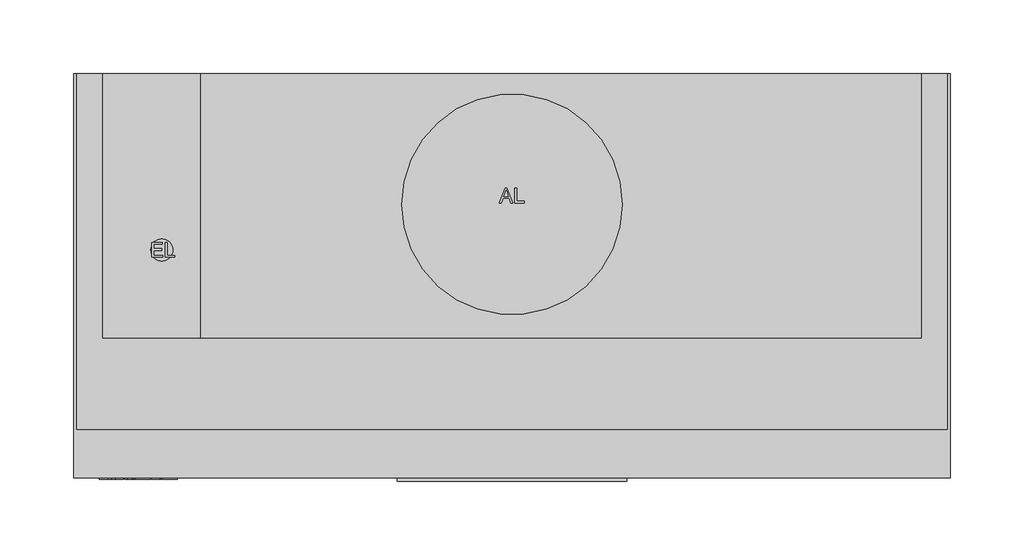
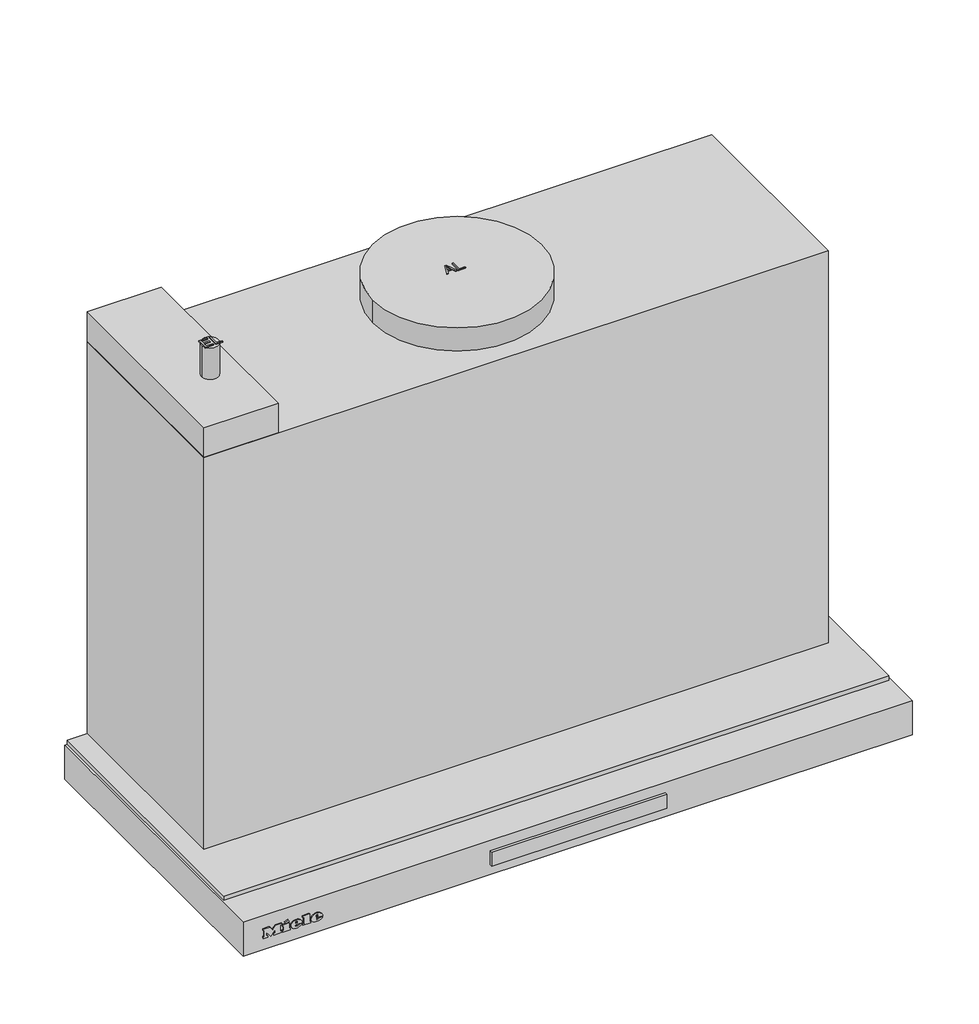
# Not in any storey: 1 proxy.
"""IFC4 building model written with IfcOpenShell, lengths in millimetres."""

import ifcopenshell
import ifcopenshell.guid

model = None  # the IFC model being written
_history = None  # IfcOwnerHistory: only IFC2X3 demands one
_inside = {}  # id of a spatial element -> (the spatial element, [elements in it])
_under = {}  # id of a project, library or spatial element -> (it, [spatial elements below it])
_declared = {}  # id of a project -> (the project, [libraries it declares])
_typed = {}  # id of a type object -> (the type object, [elements of that type])
_made_of = {}  # id of a material, layer set ... -> (it, [elements and type objects made of it])


def new_model(schema):
    """Start an empty IFC model of exactly this schema.

    Asked for "IFC4X3", IfcOpenShell would pick the latest addendum, in which some entities
    have other attributes; the version numbers below select the first issue.
    IFC2X3 requires an IfcOwnerHistory on every rooted entity: one is made here for all.
    """
    global model, _history
    if schema == "IFC4X3":
        model = ifcopenshell.file(schema_version=(4, 3, 0, 0))
    else:
        model = ifcopenshell.file(schema=schema)
    _inside.clear()
    _under.clear()
    _declared.clear()
    _typed.clear()
    _made_of.clear()
    _history = None
    if model.schema == "IFC2X3":
        org = make("IfcOrganization", Name="unknown")
        user = make(
            "IfcPersonAndOrganization",
            ThePerson=make("IfcPerson", FamilyName="unknown"),
            TheOrganization=org,
        )
        app = make(
            "IfcApplication",
            ApplicationDeveloper=org,
            Version="unknown",
            ApplicationFullName="unknown",
            ApplicationIdentifier="unknown",
        )
        _history = make(
            "IfcOwnerHistory",
            OwningUser=user,
            OwningApplication=app,
            ChangeAction="ADDED",
            CreationDate=0,
        )
    return model


def make(cls, **values):
    """One entity of the class cls with the attributes given. An attribute that is None is left unset."""
    return model.create_entity(
        cls, **{name: value for name, value in values.items() if value is not None}
    )


def rooted(cls, **values):
    """An entity with a GlobalId (a new one), such as an element, a storey or a relation."""
    return make(cls, GlobalId=ifcopenshell.guid.new(), OwnerHistory=_history, **values)


def si_unit(unit_type, name, prefix=None):
    """IfcSIUnit, for example si_unit("LENGTHUNIT", "METRE", prefix="MILLI")."""
    return make("IfcSIUnit", UnitType=unit_type, Prefix=prefix, Name=name)


def assignment(units):
    """IfcUnitAssignment: the units of a project."""
    return None if units is None else make("IfcUnitAssignment", Units=units)


def point(xyz):
    """IfcCartesianPoint."""
    return None if xyz is None else make("IfcCartesianPoint", Coordinates=xyz)


def direction(xyz):
    """IfcDirection."""
    return None if xyz is None else make("IfcDirection", DirectionRatios=xyz)


def frame(location, z_axis=None, x_axis=None):
    """IfcAxis2Placement3D, a coordinate frame: its origin and axes. An axis left out is left unset."""
    return make(
        "IfcAxis2Placement3D",
        Location=point(location),
        Axis=direction(z_axis),
        RefDirection=direction(x_axis),
    )


def frame_2d(location, x_axis=None):
    """IfcAxis2Placement2D, a coordinate frame in the plane: its origin and x axis."""
    return make(
        "IfcAxis2Placement2D", Location=point(location), RefDirection=direction(x_axis)
    )


def origin():
    """The frame at (0, 0, 0) with its axes left unset."""
    return frame((0.0, 0.0, 0.0))


def origin_with_axes():
    """The frame at (0, 0, 0) with the z axis (0, 0, 1) and the x axis (1, 0, 0) written out."""
    return frame((0.0, 0.0, 0.0), z_axis=(0.0, 0.0, 1.0), x_axis=(1.0, 0.0, 0.0))


def place(relative_to, where):
    """IfcLocalPlacement: puts the frame where relative to a parent placement (None: the world)."""
    return make(
        "IfcLocalPlacement", PlacementRelTo=relative_to, RelativePlacement=where
    )


def context(
    kind, dimensions, precision=None, world=None, true_north=None, identifier=None
):
    """IfcGeometricRepresentationContext, for example the 3D "Model" context."""
    return make(
        "IfcGeometricRepresentationContext",
        ContextIdentifier=identifier,
        ContextType=kind,
        CoordinateSpaceDimension=dimensions,
        Precision=precision,
        WorldCoordinateSystem=world,
        TrueNorth=true_north,
    )


def project(units=None, contexts=None):
    """IfcProject with its units and contexts."""
    return rooted(
        "IfcProject",
        Name="project",
        RepresentationContexts=contexts,
        UnitsInContext=assignment(units),
    )


def spatial(cls, under=None, at=None, **own):
    """A site, building, storey or space (cls), placed at a placement, below another one or the project."""
    s = rooted(cls, ObjectPlacement=at, **own)
    if under is not None:
        _under.setdefault(under.id(), (under, []))[1].append(s)
    return s


def polyline(points):
    """IfcPolyline through the points."""
    return make("IfcPolyline", Points=[point(p) for p in points])


def circle_curve(where, radius):
    """IfcCircle in the frame where."""
    return make("IfcCircle", Position=where, Radius=radius)


def ellipse_curve(where, semi_axis1, semi_axis2):
    """IfcEllipse in the frame where."""
    return make(
        "IfcEllipse", Position=where, SemiAxis1=semi_axis1, SemiAxis2=semi_axis2
    )


def trimmed(basis, trim1, trim2, sense, master):
    """IfcTrimmedCurve: the piece of a basis curve between two trims."""
    return make(
        "IfcTrimmedCurve",
        BasisCurve=basis,
        Trim1=trim1,
        Trim2=trim2,
        SenseAgreement=sense,
        MasterRepresentation=master,
    )


def segment(curve, same_sense, transition):
    """IfcCompositeCurveSegment."""
    return make(
        "IfcCompositeCurveSegment",
        Transition=transition,
        SameSense=same_sense,
        ParentCurve=curve,
    )


def composite_curve(segments, self_intersect=None):
    """IfcCompositeCurve: segments joined end to end."""
    return make("IfcCompositeCurve", Segments=segments, SelfIntersect=self_intersect)


def outline(outer, holes=None, kind="AREA"):
    """IfcArbitraryClosedProfileDef: a profile drawn as a closed curve; with holes, ...WithVoids."""
    if holes is None:
        return make("IfcArbitraryClosedProfileDef", ProfileType=kind, OuterCurve=outer)
    return make(
        "IfcArbitraryProfileDefWithVoids",
        ProfileType=kind,
        OuterCurve=outer,
        InnerCurves=holes,
    )


def extrude(swept, where, along, depth):
    """IfcExtrudedAreaSolid: the profile swept, set in the frame where, extruded along a direction by depth."""
    return make(
        "IfcExtrudedAreaSolid",
        SweptArea=swept,
        Position=where,
        ExtrudedDirection=direction(along),
        Depth=depth,
    )


def faces_of(points, faces, orient=None, outer=None):
    """IfcFace entities. A face is a list of loops; a loop is a list of indices into points, from 0.

    orient and outer hold one flag for each loop. By default every Orientation is true, the
    first loop of a face is its IfcFaceOuterBound and the others are IfcFaceBound.
    """
    made = []
    for i, loops in enumerate(faces):
        bounds = []
        for j, loop in enumerate(loops):
            is_outer = j == 0 if outer is None else outer[i][j]
            bounds.append(
                make(
                    "IfcFaceOuterBound" if is_outer else "IfcFaceBound",
                    Bound=make("IfcPolyLoop", Polygon=[points[k] for k in loop]),
                    Orientation=True if orient is None else orient[i][j],
                )
            )
        made.append(make("IfcFace", Bounds=bounds))
    return made


def faceted_brep(points, faces, orient=None, outer=None, voids=None):
    """IfcFacetedBrep: a solid bounded by flat faces; with voids (closed shells), ...WithVoids."""
    shared = [point(p) for p in points]
    hull = make("IfcClosedShell", CfsFaces=faces_of(shared, faces, orient, outer))
    if voids is None:
        return make("IfcFacetedBrep", Outer=hull)
    return make(
        "IfcFacetedBrepWithVoids",
        Outer=hull,
        Voids=[
            make(cls, CfsFaces=faces_of(shared, fs, o, b)) for cls, fs, o, b in voids
        ],
    )


def shape(context_of_items, identifier, shape_type, items):
    """IfcShapeRepresentation: the items that make up one representation, for example the "Body"."""
    return make(
        "IfcShapeRepresentation",
        ContextOfItems=context_of_items,
        RepresentationIdentifier=identifier,
        RepresentationType=shape_type,
        Items=items,
    )


def source(mapping_origin, context_of_items, identifier, shape_type, items):
    """IfcRepresentationMap: a shape defined once, which mapped items show again and again."""
    return make(
        "IfcRepresentationMap",
        MappingOrigin=mapping_origin,
        MappedRepresentation=shape(context_of_items, identifier, shape_type, items),
    )


def transform(
    local_origin,
    x_axis=None,
    y_axis=None,
    z_axis=None,
    scale=None,
    scale2=None,
    scale3=None,
    uniform=True,
):
    """IfcCartesianTransformationOperator3D, or its non-uniform kind. x_axis, y_axis, z_axis: its Axis1, 2, 3."""
    if uniform:
        return make(
            "IfcCartesianTransformationOperator3D",
            Axis1=direction(x_axis),
            Axis2=direction(y_axis),
            LocalOrigin=point(local_origin),
            Scale=scale,
            Axis3=direction(z_axis),
        )
    return make(
        "IfcCartesianTransformationOperator3DnonUniform",
        Axis1=direction(x_axis),
        Axis2=direction(y_axis),
        LocalOrigin=point(local_origin),
        Scale=scale,
        Axis3=direction(z_axis),
        Scale2=scale2,
        Scale3=scale3,
    )


def mapped(mapping_source, mapping_target):
    """IfcMappedItem: shows the shape of a source again, moved by a transform."""
    return make(
        "IfcMappedItem", MappingSource=mapping_source, MappingTarget=mapping_target
    )


def made_of(thing, what):
    """Note that an element or type object is made of a material, layer set ...; save() writes the relation."""
    if what is not None:
        _made_of.setdefault(what.id(), (what, []))[1].append(thing)
    return thing


def element(
    cls,
    number,
    at=None,
    inside=None,
    cuts=None,
    type_object=None,
    material=None,
    context=None,
    identifier="Body",
    shape_type=None,
    held_by="IfcProductDefinitionShape",
    body=None,
    shapes=None,
    **own,
):
    """One element of the class cls, such as IfcWall. Its Tag is "e" and its number.

    at: its placement. inside: the storey or other place that contains it. cuts: it is an
    opening in that element (IfcRelVoidsElement). A single representation is given by context,
    identifier, shape_type and body (its items); several are given by shapes. held_by: the class
    of the entity that holds the representations. save() writes the other relations.
    """
    e = rooted(cls, Tag="e%d" % number, ObjectPlacement=at, **own)
    if body is not None:
        shapes = [shape(context, identifier, shape_type, body)]
    if shapes is not None:
        e.Representation = make(held_by, Representations=shapes)
    if inside is not None:
        _inside.setdefault(inside.id(), (inside, []))[1].append(e)
    if cuts is not None:
        rooted(
            "IfcRelVoidsElement", RelatingBuildingElement=cuts, RelatedOpeningElement=e
        )
    if type_object is not None:
        _typed.setdefault(type_object.id(), (type_object, []))[1].append(e)
    return made_of(e, material)


def aggregate(whole, parts):
    """IfcRelAggregates: a whole, such as a stair, and the parts it consists of."""
    return rooted("IfcRelAggregates", RelatingObject=whole, RelatedObjects=parts)


def save(model, path):
    """Write the relations noted so far, then the file.

    IfcRelAggregates (storeys below a building ...), IfcRelContainedInSpatialStructure (elements
    in a storey), IfcRelDefinesByType, IfcRelAssociatesMaterial and IfcRelDeclares: one each for
    every whole, place, type object, material and project.
    """
    for whole, parts in _under.values():
        aggregate(whole, parts)
    for where, things in _inside.values():
        rooted(
            "IfcRelContainedInSpatialStructure",
            RelatedElements=things,
            RelatingStructure=where,
        )
    for kind, things in _typed.values():
        rooted("IfcRelDefinesByType", RelatedObjects=things, RelatingType=kind)
    for what, things in _made_of.values():
        rooted("IfcRelAssociatesMaterial", RelatedObjects=things, RelatingMaterial=what)
    for by, libraries in _declared.values():
        rooted("IfcRelDeclares", RelatingContext=by, RelatedDefinitions=libraries)
    model.write(path)


def plane_surface(at):
    """IfcPlane: the flat surface through the origin of the frame at, square to its z axis."""
    return make("IfcPlane", Position=at)


def cylinder_surface(at, radius):
    """IfcCylindricalSurface: all points at the distance radius from the z axis of the frame at."""
    return make("IfcCylindricalSurface", Position=at, Radius=radius)


def revolved_surface(curve, axis_point, axis_direction):
    """IfcSurfaceOfRevolution: the curve turned about the line through axis_point along axis_direction."""
    return make(
        "IfcSurfaceOfRevolution",
        SweptCurve=make("IfcArbitraryOpenProfileDef", ProfileType="CURVE", Curve=curve),
        AxisPosition=make("IfcAxis1Placement", Location=point(axis_point), Axis=direction(axis_direction)),
    )


def extruded_surface(curve, direction_of_extrusion, depth):
    """IfcSurfaceOfLinearExtrusion: the curve pushed along a direction by depth."""
    return make(
        "IfcSurfaceOfLinearExtrusion",
        SweptCurve=make("IfcArbitraryOpenProfileDef", ProfileType="CURVE", Curve=curve),
        ExtrudedDirection=direction(direction_of_extrusion),
        Depth=depth,
    )


def advanced_brep(points, edges, surfaces, faces):
    """IfcAdvancedBrep: a solid bounded by faces that lie on surfaces and meet in shared edges.

    An edge is (start, end): straight between two places in points (the first is 0);
    or (start, end, curve); or (start, end, curve, False) where it runs against its curve.
    A face is (place in surfaces, loops), or (place, loops, False) where it looks against
    its surface's normal. A loop lists edges by number (the first is 1), with a minus sign
    where the edge is run from its end to its start. The first loop is the outer one.
    """
    corners = [point(p) for p in points]
    vertices = [make("IfcVertexPoint", VertexGeometry=c) for c in corners]
    made = []
    for start, end, *more in edges:
        made.append(
            make(
                "IfcEdgeCurve",
                EdgeStart=vertices[start],
                EdgeEnd=vertices[end],
                EdgeGeometry=more[0] if more else make("IfcPolyline", Points=[corners[start], corners[end]]),
                SameSense=more[1] if len(more) > 1 else True,
            )
        )
    hull = []
    for where, loops, *sense in faces:
        bounds = []
        for j, loop in enumerate(loops):
            ring = [make("IfcOrientedEdge", EdgeElement=made[abs(k) - 1], Orientation=k > 0) for k in loop]
            bounds.append(
                make(
                    "IfcFaceOuterBound" if j == 0 else "IfcFaceBound",
                    Bound=make("IfcEdgeLoop", EdgeList=ring),
                    Orientation=True,
                )
            )
        hull.append(make("IfcAdvancedFace", Bounds=bounds, FaceSurface=surfaces[where], SameSense=sense[0] if sense else True))
    return make("IfcAdvancedBrep", Outer=make("IfcClosedShell", CfsFaces=hull))


def specialty_equipment_1dbf12ea(model_context):
    return source(origin(), model_context, "Body", "SolidModel", [
        extrude(outline(polyline([(78.0, -275.0), (78.0, -277.3978707), (-78.0, -277.3978707), (-78.0, -275.0), (78.0, -275.0)])), frame((0.0, 0.0, -23.0389651), z_axis=(0.0, 0.0, 1.0), x_axis=(1.0, 0.0, 0.0)), (0.0, 0.0, 1.0), 13.3389155),
        advanced_brep(
        [(-233.4590019, -276.0, -18.7681017), (-233.4590019, -276.0, -17.8894017), (-227.6387019, -276.0, -17.8894017), (-237.7655019, -276.0, -17.8894017), (-235.3730019, -276.0, -20.8300017), (-227.7866019, -276.0, -18.7681017), (-230.4140019, -276.0, -18.7681017), (-232.4846019, -276.0, -19.7425017), (-233.4590019, -276.0, -16.7758017), (-233.4590019, -276.0, -15.8275017), (-231.9713019, -276.0, -15.8275017), (-231.9713019, -276.0, -16.7758017), (-233.4590019, -275.0, -18.7681017), (-232.4846019, -275.0, -19.7425017), (-230.4140019, -275.0, -18.7681017), (-227.7866019, -275.0, -18.7681017), (-235.3730019, -275.0, -20.8300017), (-237.7655019, -275.0, -17.8894017), (-227.6387019, -275.0, -17.8894017), (-233.4590019, -275.0, -17.8894017), (-233.4590019, -275.0, -16.7758017), (-231.9713019, -275.0, -16.7758017), (-231.9713019, -275.0, -15.8275017), (-233.4590019, -275.0, -15.8275017)],
        [
            (0, 1),
            (1, 2),
            (2, 3, ellipse_curve(frame((-232.7021019, -276.0, -17.8894017), z_axis=(0.0, -1.0, 0.0), x_axis=(-1.0, 0.0, 0.0)), 5.0634, 4.1847)),
            (3, 4, circle_curve(frame((-234.3985544, -276.0, -17.5936017), z_axis=(0.0, -1.0, 0.0), x_axis=(0.0, 0.0, -1.0)), 3.3799161)),
            (4, 5, circle_curve(frame((-232.8034638, -276.0, -15.2968017), z_axis=(0.0, -1.0, 0.0), x_axis=(0.0, 0.0, -1.0)), 6.1007236)),
            (5, 6),
            (6, 7, circle_curve(frame((-232.0593254, -276.0, -17.9590017), z_axis=(0.0, 1.0, 0.0), x_axis=(0.0, 0.0, -1.0)), 1.8335027)),
            (7, 0, circle_curve(frame((-232.4846019, -276.0, -18.7681017), z_axis=(0.0, 1.0, 0.0), x_axis=(0.0, 0.0, -1.0)), 0.9744)),
            (8, 9),
            (9, 10, circle_curve(frame((-232.7151519, -276.0, -15.8275017), z_axis=(0.0, 1.0, 0.0), x_axis=(0.0, 0.0, -1.0)), 0.74385)),
            (10, 11),
            (11, 8),
            (12, 13, circle_curve(frame((-232.4846019, -275.0, -18.7681017), z_axis=(0.0, -1.0, 0.0), x_axis=(0.0, 0.0, -1.0)), 0.9744)),
            (13, 14, circle_curve(frame((-232.0593254, -275.0, -17.9590017), z_axis=(0.0, -1.0, 0.0), x_axis=(0.0, 0.0, -1.0)), 1.8335027)),
            (14, 15),
            (15, 16, circle_curve(frame((-232.8034638, -275.0, -15.2968017), z_axis=(0.0, 1.0, 0.0), x_axis=(0.0, 0.0, -1.0)), 6.1007236)),
            (16, 17, circle_curve(frame((-234.3985544, -275.0, -17.5936017), z_axis=(0.0, 1.0, 0.0), x_axis=(0.0, 0.0, -1.0)), 3.3799161)),
            (17, 18, ellipse_curve(frame((-232.7021019, -275.0, -17.8894017), z_axis=(0.0, 1.0, 0.0), x_axis=(-1.0, 0.0, 0.0)), 5.0634, 4.1847)),
            (18, 19),
            (19, 12),
            (20, 21),
            (21, 22),
            (22, 23, circle_curve(frame((-232.7151519, -275.0, -15.8275017), z_axis=(0.0, -1.0, 0.0), x_axis=(0.0, 0.0, -1.0)), 0.74385)),
            (23, 20),
            (0, 12),
            (19, 1),
            (18, 2),
            (5, 15),
            (14, 6),
            (17, 3),
            (13, 7),
            (16, 4),
            (8, 20),
            (23, 9),
            (22, 10),
            (21, 11),
        ],
        [
            plane_surface(frame((-233.4590019, -276.0, -17.8894017), z_axis=(0.0, -1.0, 0.0), x_axis=(0.0, 0.0, 1.0))),
            plane_surface(frame((-233.4590019, -275.0, -17.8894017), z_axis=(0.0, 1.0, 0.0), x_axis=(0.0, 0.0, -1.0))),
            plane_surface(frame((-233.4590019, -276.0, -18.7681017), z_axis=(1.0, 0.0, 0.0), x_axis=(0.0, 1.0, 0.0))),
            plane_surface(frame((-233.4590019, -276.0, -17.8894017), z_axis=(0.0, 0.0, -1.0), x_axis=(0.0, 1.0, 0.0))),
            plane_surface(frame((-227.7866019, -276.0, -18.7681017), z_axis=(0.0, 0.0, 1.0), x_axis=(0.0, 1.0, 0.0))),
            extruded_surface(trimmed(ellipse_curve(frame((-232.7021019, -274.0, -17.8894017), z_axis=(0.0, -1.0, 0.0), x_axis=(-1.0, 0.0, 0.0)), 5.0634, 4.1847), [point((-227.6387019, -274.0, -17.8894017))], [point((-237.7655019, -274.0, -17.8894017))], True, "CARTESIAN"), (0.0, -1.0, 0.0), 1.0),
            revolved_surface(polyline([(-232.0593254, -275.0, -19.792504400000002), (-232.0593254, -276.0, -19.792504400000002)]), (-232.0593254, -275.0, -17.9590017), (0.0, 1.0, 0.0)),
            revolved_surface(polyline([(-232.4846019, -275.0, -19.7425017), (-232.4846019, -276.0, -19.7425017)]), (-232.4846019, -275.0, -18.7681017), (0.0, 1.0, 0.0)),
            cylinder_surface(frame((-234.3985544, -275.0, -17.5936017), z_axis=(0.0, -1.0, 0.0), x_axis=(0.0, 0.0, -1.0)), 3.3799161),
            cylinder_surface(frame((-232.8034638, -275.0, -15.2968017), z_axis=(0.0, -1.0, 0.0), x_axis=(0.0, 0.0, -1.0)), 6.1007236),
            plane_surface(frame((-233.4590019, -276.0, -16.7758017), z_axis=(1.0, 0.0, 0.0), x_axis=(0.0, 1.0, 0.0))),
            revolved_surface(polyline([(-232.7151519, -275.0, -16.571351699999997), (-232.7151519, -276.0, -16.571351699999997)]), (-232.7151519, -275.0, -15.8275017), (0.0, 1.0, 0.0)),
            plane_surface(frame((-231.9713019, -276.0, -15.8275017), z_axis=(-1.0, 0.0, 0.0), x_axis=(0.0, 1.0, 0.0))),
            plane_surface(frame((-231.9713019, -276.0, -16.7758017), z_axis=(0.0, 0.0, 1.0), x_axis=(0.0, 1.0, 0.0))),
        ],
        [
            (0, [[1, 2, 3, 4, 5, 6, 7, 8], [9, 10, 11, 12]]),
            (1, [[13, 14, 15, 16, 17, 18, 19, 20], [21, 22, 23, 24]]),
            (2, [[-1, 25, -20, 26]]),
            (3, [[-2, -26, -19, 27]]),
            (4, [[-6, 28, -15, 29]]),
            (5, [[-3, -27, -18, 30]]),
            (6, [[-7, -29, -14, 31]]),
            (7, [[-8, -31, -13, -25]]),
            (8, [[-4, -30, -17, 32]]),
            (9, [[-5, -32, -16, -28]]),
            (10, [[-9, 33, -24, 34]]),
            (11, [[-10, -34, -23, 35]]),
            (12, [[-11, -35, -22, 36]]),
            (13, [[-12, -36, -21, -33]]),
        ],
    ),
        advanced_brep(
        [(-251.6159019, -276.0, -18.7681017), (-251.6159019, -276.0, -17.8894017), (-245.7956019, -276.0, -17.8894017), (-255.9224019, -276.0, -17.8894017), (-253.5299019, -276.0, -20.8300017), (-245.9435019, -276.0, -18.7681017), (-248.5709019, -276.0, -18.7681017), (-250.6415019, -276.0, -19.7425017), (-251.6159019, -276.0, -16.7758017), (-251.6159019, -276.0, -15.8275017), (-250.1282019, -276.0, -15.8275017), (-250.1282019, -276.0, -16.7758017), (-251.6159019, -275.0, -18.7681017), (-250.6415019, -275.0, -19.7425017), (-248.5709019, -275.0, -18.7681017), (-245.9435019, -275.0, -18.7681017), (-253.5299019, -275.0, -20.8300017), (-255.9224019, -275.0, -17.8894017), (-245.7956019, -275.0, -17.8894017), (-251.6159019, -275.0, -17.8894017), (-251.6159019, -275.0, -16.7758017), (-250.1282019, -275.0, -16.7758017), (-250.1282019, -275.0, -15.8275017), (-251.6159019, -275.0, -15.8275017)],
        [
            (0, 1),
            (1, 2),
            (2, 3, ellipse_curve(frame((-250.8590019, -276.0, -17.8894017), z_axis=(0.0, -1.0, 0.0), x_axis=(-1.0, 0.0, 0.0)), 5.0634, 4.1847)),
            (3, 4, circle_curve(frame((-252.5554544, -276.0, -17.5936017), z_axis=(0.0, -1.0, 0.0), x_axis=(0.0, 0.0, -1.0)), 3.3799161)),
            (4, 5, circle_curve(frame((-250.9603638, -276.0, -15.2968017), z_axis=(0.0, -1.0, 0.0), x_axis=(0.0, 0.0, -1.0)), 6.1007236)),
            (5, 6),
            (6, 7, circle_curve(frame((-250.2162254, -276.0, -17.9590017), z_axis=(0.0, 1.0, 0.0), x_axis=(0.0, 0.0, -1.0)), 1.8335027)),
            (7, 0, circle_curve(frame((-250.6415019, -276.0, -18.7681017), z_axis=(0.0, 1.0, 0.0), x_axis=(0.0, 0.0, -1.0)), 0.9744)),
            (8, 9),
            (9, 10, circle_curve(frame((-250.8720519, -276.0, -15.8275017), z_axis=(0.0, 1.0, 0.0), x_axis=(0.0, 0.0, -1.0)), 0.74385)),
            (10, 11),
            (11, 8),
            (12, 13, circle_curve(frame((-250.6415019, -275.0, -18.7681017), z_axis=(0.0, -1.0, 0.0), x_axis=(0.0, 0.0, -1.0)), 0.9744)),
            (13, 14, circle_curve(frame((-250.2162254, -275.0, -17.9590017), z_axis=(0.0, -1.0, 0.0), x_axis=(0.0, 0.0, -1.0)), 1.8335027)),
            (14, 15),
            (15, 16, circle_curve(frame((-250.9603638, -275.0, -15.2968017), z_axis=(0.0, 1.0, 0.0), x_axis=(0.0, 0.0, -1.0)), 6.1007236)),
            (16, 17, circle_curve(frame((-252.5554544, -275.0, -17.5936017), z_axis=(0.0, 1.0, 0.0), x_axis=(0.0, 0.0, -1.0)), 3.3799161)),
            (17, 18, ellipse_curve(frame((-250.8590019, -275.0, -17.8894017), z_axis=(0.0, 1.0, 0.0), x_axis=(-1.0, 0.0, 0.0)), 5.0634, 4.1847)),
            (18, 19),
            (19, 12),
            (20, 21),
            (21, 22),
            (22, 23, circle_curve(frame((-250.8720519, -275.0, -15.8275017), z_axis=(0.0, -1.0, 0.0), x_axis=(0.0, 0.0, -1.0)), 0.74385)),
            (23, 20),
            (0, 12),
            (19, 1),
            (18, 2),
            (5, 15),
            (14, 6),
            (17, 3),
            (13, 7),
            (16, 4),
            (8, 20),
            (23, 9),
            (22, 10),
            (21, 11),
        ],
        [
            plane_surface(frame((-251.6159019, -276.0, -17.8894017), z_axis=(0.0, -1.0, 0.0), x_axis=(0.0, 0.0, 1.0))),
            plane_surface(frame((-251.6159019, -275.0, -17.8894017), z_axis=(0.0, 1.0, 0.0), x_axis=(0.0, 0.0, -1.0))),
            plane_surface(frame((-251.6159019, -276.0, -18.7681017), z_axis=(1.0, 0.0, 0.0), x_axis=(0.0, 1.0, 0.0))),
            plane_surface(frame((-251.6159019, -276.0, -17.8894017), z_axis=(0.0, 0.0, -1.0), x_axis=(0.0, 1.0, 0.0))),
            plane_surface(frame((-245.9435019, -276.0, -18.7681017), z_axis=(0.0, 0.0, 1.0), x_axis=(0.0, 1.0, 0.0))),
            extruded_surface(trimmed(ellipse_curve(frame((-250.8590019, -274.0, -17.8894017), z_axis=(0.0, -1.0, 0.0), x_axis=(-1.0, 0.0, 0.0)), 5.0634, 4.1847), [point((-245.7956019, -274.0, -17.8894017))], [point((-255.9224019, -274.0, -17.8894017))], True, "CARTESIAN"), (0.0, -1.0, 0.0), 1.0),
            revolved_surface(polyline([(-250.2162254, -275.0, -19.792504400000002), (-250.2162254, -276.0, -19.792504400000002)]), (-250.2162254, -275.0, -17.9590017), (0.0, 1.0, 0.0)),
            revolved_surface(polyline([(-250.6415019, -275.0, -19.7425017), (-250.6415019, -276.0, -19.7425017)]), (-250.6415019, -275.0, -18.7681017), (0.0, 1.0, 0.0)),
            cylinder_surface(frame((-252.5554544, -275.0, -17.5936017), z_axis=(0.0, -1.0, 0.0), x_axis=(0.0, 0.0, -1.0)), 3.3799161),
            cylinder_surface(frame((-250.9603638, -275.0, -15.2968017), z_axis=(0.0, -1.0, 0.0), x_axis=(0.0, 0.0, -1.0)), 6.1007236),
            plane_surface(frame((-251.6159019, -276.0, -16.7758017), z_axis=(1.0, 0.0, 0.0), x_axis=(0.0, 1.0, 0.0))),
            revolved_surface(polyline([(-250.8720519, -275.0, -16.571351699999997), (-250.8720519, -276.0, -16.571351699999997)]), (-250.8720519, -275.0, -15.8275017), (0.0, 1.0, 0.0)),
            plane_surface(frame((-250.1282019, -276.0, -15.8275017), z_axis=(-1.0, 0.0, 0.0), x_axis=(0.0, 1.0, 0.0))),
            plane_surface(frame((-250.1282019, -276.0, -16.7758017), z_axis=(0.0, 0.0, 1.0), x_axis=(0.0, 1.0, 0.0))),
        ],
        [
            (0, [[1, 2, 3, 4, 5, 6, 7, 8], [9, 10, 11, 12]]),
            (1, [[13, 14, 15, 16, 17, 18, 19, 20], [21, 22, 23, 24]]),
            (2, [[-1, 25, -20, 26]]),
            (3, [[-2, -26, -19, 27]]),
            (4, [[-6, 28, -15, 29]]),
            (5, [[-3, -27, -18, 30]]),
            (6, [[-7, -29, -14, 31]]),
            (7, [[-8, -31, -13, -25]]),
            (8, [[-4, -30, -17, 32]]),
            (9, [[-5, -32, -16, -28]]),
            (10, [[-9, 33, -24, 34]]),
            (11, [[-10, -34, -23, 35]]),
            (12, [[-11, -35, -22, 36]]),
            (13, [[-12, -36, -21, -33]]),
        ],
    ),
        extrude(outline(polyline([(-12.6433017, -261.1250019), (-14.0527017, -260.4638019), (-12.6781017, -257.5145019), (-11.2687017, -258.1670019), (-12.6433017, -261.1250019)])), frame((0.0, -276.0, 0.0), z_axis=(0.0, 1.0, 0.0), x_axis=(0.0, 0.0, 1.0)), (0.0, 0.0, 1.0), 1.0),
        extrude(outline(polyline([(-14.2441017, -263.2739019), (-15.8014017, -263.2739019), (-15.8014017, -262.2386019), (-19.3684017, -262.2386019), (-19.3684017, -263.2739019), (-20.8300017, -263.2739019), (-20.8300017, -256.4096019), (-19.3684017, -256.4096019), (-19.3684017, -257.4188019), (-14.2441017, -257.4188019), (-14.2441017, -263.2739019)])), frame((0.0, -276.0, 0.0), z_axis=(0.0, 1.0, 0.0), x_axis=(0.0, 0.0, 1.0)), (0.0, 0.0, 1.0), 1.0),
        extrude(outline(polyline([(-13.5481017, -245.3084019), (-13.5481017, -244.2644019), (-19.3684017, -244.2644019), (-19.3684017, -245.3084019), (-20.8300017, -245.3084019), (-20.8300017, -238.2527019), (-19.3684017, -238.2527019), (-19.3684017, -239.3228019), (-12.1300017, -239.3228019), (-12.1300017, -245.3084019), (-13.5481017, -245.3084019)])), frame((0.0, -276.0, 0.0), z_axis=(0.0, 1.0, 0.0), x_axis=(0.0, 0.0, 1.0)), (0.0, 0.0, 1.0), 1.0),
        extrude(outline(polyline([(-13.5481017, -280.6130019), (-13.5481017, -279.5603019), (-19.3684017, -279.5603019), (-19.3684017, -280.6130019), (-20.8300017, -280.6130019), (-20.8300017, -276.7850019), (-19.3684017, -276.7850019), (-19.3684017, -277.8290019), (-15.6719769, -277.8290019), (-20.8300017, -273.9401019), (-15.5772794, -270.0338019), (-19.3684017, -270.0338019), (-19.3684017, -271.1039019), (-20.8300017, -271.1039019), (-20.8300017, -264.1613019), (-19.3684017, -264.1613019), (-19.3684017, -265.2662019), (-13.5481017, -265.2662019), (-13.5481017, -264.1613019), (-12.1300017, -264.1613019), (-12.1300017, -269.4596019), (-15.3925017, -272.0000019), (-12.1300017, -274.5491019), (-12.1300017, -280.6130019), (-13.5481017, -280.6130019)])), frame((0.0, -276.0, 0.0), z_axis=(0.0, 1.0, 0.0), x_axis=(0.0, 0.0, 1.0)), (0.0, 0.0, 1.0), 1.0),
        extrude(outline(polyline([(278.0, -180.0), (-278.0, -180.0), (-278.0, 0.0), (278.0, 0.0), (278.0, -180.0)])), frame((0.0, 0.0, 4.0), z_axis=(0.0, 0.0, 1.0), x_axis=(1.0, 0.0, 0.0)), (0.0, 0.0, 1.0), 369.0),
        extrude(outline(composite_curve([segment(trimmed(circle_curve(frame_2d((0.0, -89.0)), 75.0), [point((-75.0, -89.0))], [point((75.0, -89.0))], False, "CARTESIAN"), True, "CONTINUOUS"), segment(trimmed(circle_curve(frame_2d((0.0, -89.0)), 75.0), [point((75.0, -89.0))], [point((-75.0, -89.0))], False, "CARTESIAN"), True, "CONTINUOUS")], self_intersect=False)), frame((0.0, 0.0, 373.0), z_axis=(0.0, 0.0, 1.0), x_axis=(1.0, 0.0, 0.0)), (0.0, 0.0, 1.0), 22.0),
        extrude(outline(polyline([(-278.0, -180.0), (-278.0, 0.0), (-212.0, 0.0), (-212.0, -180.0), (-278.0, -180.0)])), frame((0.0, 0.0, 373.0), z_axis=(0.0, 0.0, 1.0), x_axis=(1.0, 0.0, 0.0)), (0.0, 0.0, 1.0), 28.0),
        extrude(outline(polyline([(-8.5446725, -87.975609), (-4.5347587, -77.929978), (-3.4654484, -77.929978), (0.5420128, -87.975609), (-0.7848149, -87.975609), (-1.9326067, -84.8363493), (-6.0725055, -84.8363493), (-7.2202973, -87.975609), (-8.5446725, -87.975609)]), holes=[polyline([(-5.6114267, -83.5806455), (-2.391233, -83.5806455), (-3.2986752, -81.110931), (-4.0025561, -79.1856819), (-4.6279555, -80.8951069), (-5.6114267, -83.5806455)])]), frame((0.0, 0.0, 395.0), z_axis=(0.0, 0.0, 1.0), x_axis=(1.0, 0.0, 0.0)), (0.0, 0.0, 1.0), 1.0),
        extrude(outline(polyline([(1.8835558, -87.975609), (1.8835558, -77.929978), (3.1392597, -77.929978), (3.1392597, -86.7199052), (8.1620752, -86.7199052), (8.1620752, -87.975609), (1.8835558, -87.975609)])), frame((0.0, 0.0, 395.0), z_axis=(0.0, 0.0, 1.0), x_axis=(1.0, 0.0, 0.0)), (0.0, 0.0, 1.0), 1.0),
        extrude(outline(polyline([(296.0, 0.0), (296.0, -242.0), (-296.0, -242.0), (-296.0, 0.0), (296.0, 0.0)])), origin_with_axes(), (0.0, 0.0, 1.0), 4.0),
        extrude(outline(polyline([(120.0, -19.25), (120.0, -31.75), (-120.0, -31.75), (-120.0, -19.25), (120.0, -19.25)])), frame((0.0, 0.0, -23.0), z_axis=(0.0, 0.0, 1.0), x_axis=(1.0, 0.0, 0.0)), (0.0, 0.0, 1.0), 1.785426),
        extrude(outline(polyline([(181.0813184, -268.0), (181.0813184, -246.0), (249.0, -246.0), (249.0, -268.0), (181.0813184, -268.0)])), frame((0.0, 0.0, -33.3019181), z_axis=(0.0, 0.0, 1.0), x_axis=(1.0, 0.0, 0.0)), (0.0, 0.0, 1.0), 1.3019181),
        extrude(outline(polyline([(-249.0, -268.0), (-249.0, -246.0), (-181.0, -246.0), (-181.0, -268.0), (-249.0, -268.0)])), frame((0.0, 0.0, -33.3019181), z_axis=(0.0, 0.0, 1.0), x_axis=(1.0, 0.0, 0.0)), (0.0, 0.0, 1.0), 1.3019181),
        extrude(outline(composite_curve([segment(trimmed(circle_curve(frame_2d((-238.0, -120.0)), 7.5), [point((-230.5, -120.0))], [point((-245.5, -120.0))], False, "CARTESIAN"), True, "CONTINUOUS"), segment(trimmed(circle_curve(frame_2d((-238.0, -120.0)), 7.5), [point((-245.5, -120.0))], [point((-230.5, -120.0))], False, "CARTESIAN"), True, "CONTINUOUS")], self_intersect=False)), frame((0.0, 0.0, 401.0), z_axis=(0.0, 0.0, 1.0), x_axis=(1.0, 0.0, 0.0)), (0.0, 0.0, 1.0), 30.0),
        extrude(outline(polyline([(-235.640443, -124.9184735), (-235.640443, -114.8728425), (-234.3847391, -114.8728425), (-234.3847391, -123.6627696), (-229.3619236, -123.6627696), (-229.3619236, -124.9184735), (-235.640443, -124.9184735)])), frame((0.0, 0.0, 431.0), z_axis=(0.0, 0.0, 1.0), x_axis=(1.0, 0.0, 0.0)), (0.0, 0.0, 1.0), 1.0),
        extrude(outline(polyline([(-244.9012591, -124.9184735), (-244.9012591, -114.8728425), (-237.6809618, -114.8728425), (-237.6809618, -116.1285464), (-243.6455552, -116.1285464), (-243.6455552, -119.1108431), (-237.9948878, -119.1108431), (-237.9948878, -120.366547), (-243.6455552, -120.366547), (-243.6455552, -123.6627696), (-237.5239988, -123.6627696), (-237.5239988, -124.9184735), (-244.9012591, -124.9184735)])), frame((0.0, 0.0, 431.0), z_axis=(0.0, 0.0, 1.0), x_axis=(1.0, 0.0, 0.0)), (0.0, 0.0, 1.0), 1.0),
        extrude(outline(polyline([(-298.0, 0.0), (-263.0, 0.0), (-263.0, -242.0), (263.0, -242.0), (263.0, 0.0), (298.0, 0.0), (298.0, -275.0), (-298.0, -275.0), (-298.0, 0.0)])), frame((0.0, 0.0, -32.0), z_axis=(0.0, 0.0, 1.0), x_axis=(1.0, 0.0, 0.0)), (0.0, 0.0, 1.0), 32.0),
        faceted_brep([(-126.0, -39.0, -24.0), (-126.0, -39.0, 0.0), (126.0, -39.0, 0.0), (126.0, -39.0, -24.0), (-126.0, -12.0, -24.0), (-126.0, -12.0, 0.0), (126.0, -12.0, -24.0), (126.0, -12.0, 0.0), (-263.0, -242.0, 0.0), (-263.0, 0.0, 0.0), (-263.0, 0.0, -24.0), (-263.0, -52.0, -24.0), (-263.0, -52.0, -25.0), (-263.0, -242.0, -25.0), (263.0, -52.0, -25.0), (263.0, -242.0, -25.0), (263.0, -52.0, -24.0), (263.0, 0.0, -24.0), (263.0, 0.0, 0.0), (263.0, -242.0, 0.0)], [[[0, 1, 2, 3]], [[4, 5, 1, 0]], [[6, 7, 5, 4]], [[8, 9, 10, 11, 12, 13]], [[13, 12, 14, 15]], [[16, 11, 10, 17], [6, 4, 0, 3]], [[11, 16, 14, 12]], [[18, 9, 8, 19], [5, 7, 2, 1]], [[9, 18, 17, 10]], [[19, 8, 13, 15]], [[18, 19, 15, 14, 16, 17]], [[7, 6, 3, 2]]]),
        extrude(outline(polyline([(126.0, -12.0), (126.0, -39.0), (-126.0, -39.0), (-126.0, -12.0), (126.0, -12.0)]), holes=[polyline([(120.0, -19.25), (-120.0, -19.25), (-120.0, -31.75), (120.0, -31.75), (120.0, -19.25)])]), frame((0.0, 0.0, -21.214574), z_axis=(0.0, 0.0, 1.0), x_axis=(1.0, 0.0, 0.0)), (0.0, 0.0, 1.0), 21.214574),
    ])


model = new_model("IFC4")

# Units and contexts
model_context = context("Model", 3, world=origin())
ifc_project = project(units=[si_unit("LENGTHUNIT", "METRE", prefix="MILLI")], contexts=[model_context])

# Site, building
site = spatial("IfcSite", under=ifc_project)
building = spatial("IfcBuilding", under=site)

# Proxy
placement = place(None, origin())
specialty_equipment_shape = specialty_equipment_1dbf12ea(model_context)
element("IfcBuildingElementProxy", 1, Name="12556600_B_DAS4620_MASW : 28S4620M_B_12556600_DAS4620_MASW", ObjectType="12556600_B_DAS4620_MASW : 28S4620M_B_12556600_DAS4620_MASW", at=placement, inside=building, context=model_context, shape_type="MappedRepresentation", body=[
    mapped(specialty_equipment_shape, transform((0.0, 0.0, 0.0), x_axis=(1.0, 0.0, 0.0), y_axis=(0.0, 1.0, 0.0), z_axis=(0.0, 0.0, 1.0))),
])

save(model, "model.ifc")
